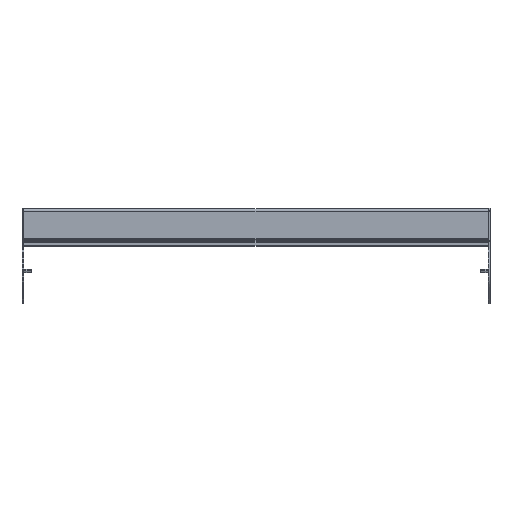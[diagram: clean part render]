
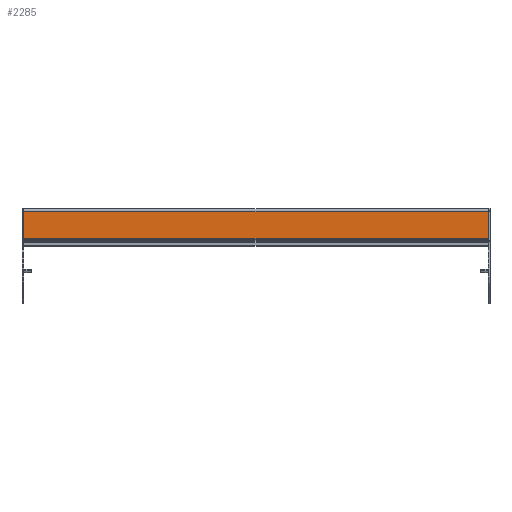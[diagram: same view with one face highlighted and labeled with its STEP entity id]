
A CAD part, top view. The second image highlights one B-rep face of the part: STEP entity #2285.
In plain terms, the highlighted planar face has unit normal (0, 0, 1) as drawn and (1, 0, 0) by its records, which use the part's own axes.
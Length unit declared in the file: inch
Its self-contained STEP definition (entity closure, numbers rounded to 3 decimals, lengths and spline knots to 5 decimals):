
#197=DIRECTION('',(0.,1.,0.));
#198=VECTOR('',#197,1.81445);
#199=CARTESIAN_POINT('',(0.683,-0.84545,-15.118));
#200=LINE('',#199,#198);
#303=DIRECTION('',(0.,1.,0.));
#304=VECTOR('',#303,1.81445);
#305=CARTESIAN_POINT('',(0.683,-0.84545,15.118));
#306=LINE('',#305,#304);
#646=DIRECTION('',(0.,0.,1.));
#647=VECTOR('',#646,30.236);
#648=CARTESIAN_POINT('',(0.683,0.969,-15.118));
#649=LINE('',#648,#647);
#659=DIRECTION('',(0.,0.,-1.));
#660=VECTOR('',#659,30.236);
#661=CARTESIAN_POINT('',(0.683,-0.84545,15.118));
#662=LINE('',#661,#660);
#1270=CARTESIAN_POINT('',(0.683,-0.84545,-15.118));
#1271=CARTESIAN_POINT('',(0.683,0.969,-15.118));
#1272=VERTEX_POINT('',#1270);
#1273=VERTEX_POINT('',#1271);
#1274=CARTESIAN_POINT('',(0.683,-0.84545,15.118));
#1275=CARTESIAN_POINT('',(0.683,0.969,15.118));
#1276=VERTEX_POINT('',#1274);
#1277=VERTEX_POINT('',#1275);
#2273=CARTESIAN_POINT('',(0.683,-0.86334,-15.118));
#2274=DIRECTION('',(1.,0.,0.));
#2275=DIRECTION('',(0.,1.,0.));
#2276=AXIS2_PLACEMENT_3D('',#2273,#2274,#2275);
#2277=PLANE('',#2276);
#2278=ORIENTED_EDGE('',*,*,#1631,.F.);
#2280=ORIENTED_EDGE('',*,*,#2279,.F.);
#2281=ORIENTED_EDGE('',*,*,#1734,.T.);
#2282=ORIENTED_EDGE('',*,*,#2266,.F.);
#2283=EDGE_LOOP('',(#2278,#2280,#2281,#2282));
#2284=FACE_OUTER_BOUND('',#2283,.F.);
#1631=EDGE_CURVE('',#1272,#1273,#200,.T.);
#1734=EDGE_CURVE('',#1276,#1277,#306,.T.);
#2266=EDGE_CURVE('',#1273,#1277,#649,.T.);
#2279=EDGE_CURVE('',#1276,#1272,#662,.T.);
#2285=ADVANCED_FACE('',(#2284),#2277,.T.);
